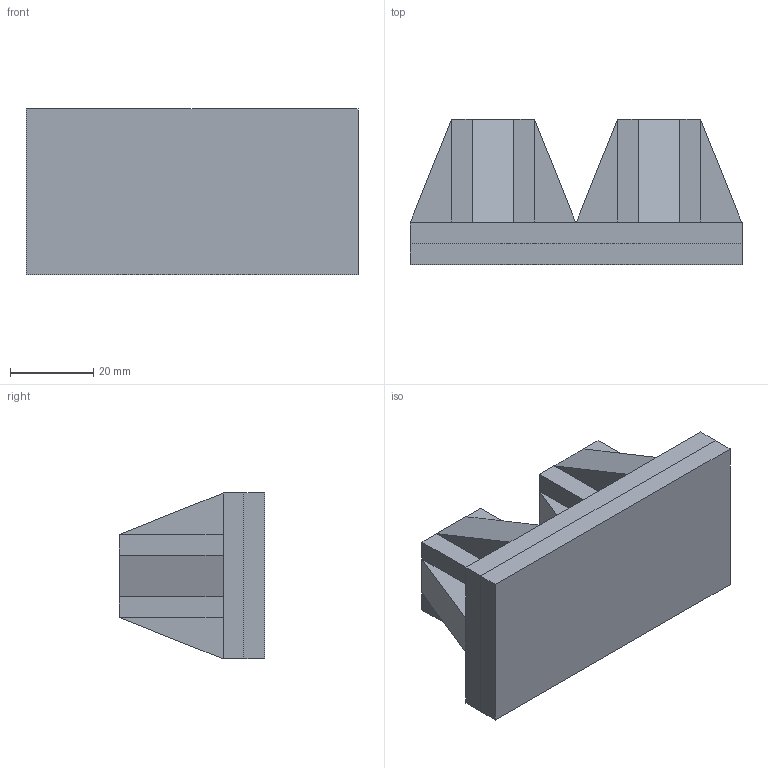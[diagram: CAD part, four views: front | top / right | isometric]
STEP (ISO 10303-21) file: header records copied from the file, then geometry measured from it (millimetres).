
FILE_DESCRIPTION(/* description */ (''),/* implementation_level */ '2;1');
FILE_NAME(/* name */ 'E:\OneDrive\Desktop\N5_GC_Sections\Task 7\ASSY_Task_7.stp',/* time_stamp */ '2020-06-08T21:04:38+01:00',/* author */ ('hunte'),/* organization */ (''),/* preprocessor_version */ 'ST-DEVELOPER v18.1',/* originating_system */ 'Autodesk Inventor 2020',/* authorisation */ '');
FILE_SCHEMA (('AUTOMOTIVE_DESIGN { 1 0 10303 214 3 1 1 }'));
Length unit declared in the file: millimetre
Products named in the file (3): ASSY_Task_7; PRT_A; PRT_B
Assembly tree (2 placements, depth 2):
  ASSY_Task_7
    PRT_A
    PRT_B
Bounding box: 80 x 35 x 40 mm (x, y, z)
Volume: 62000 mm3; surface area: 24954.1 mm2
Topology: 2 solids, 2 shells, 77 faces, 181 edges, 110 vertices
Faces by surface type: plane 77
Entity records: 2232 total; most frequent: CARTESIAN_POINT 373, ORIENTED_EDGE 362, DIRECTION 345, LINE 181, VECTOR 181, EDGE_CURVE 181, VERTEX_POINT 110, EDGE_LOOP 83
